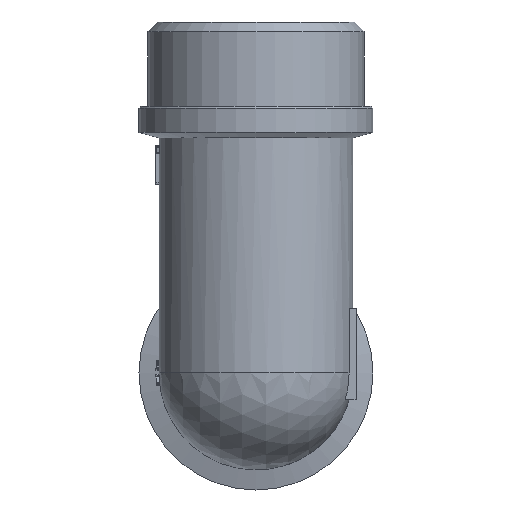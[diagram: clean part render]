
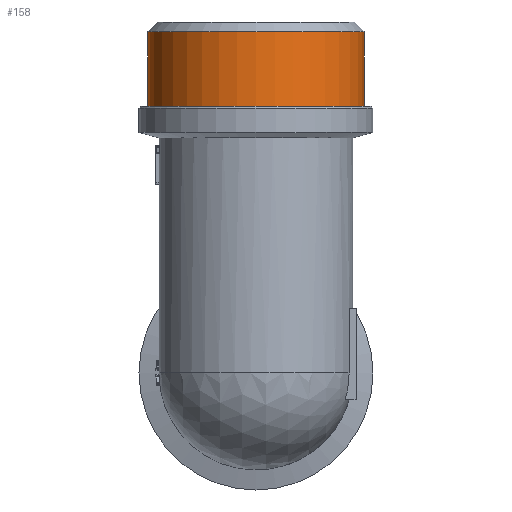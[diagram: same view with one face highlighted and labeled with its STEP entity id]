
A CAD part, front view. The second image highlights one B-rep face of the part: STEP entity #158.
In plain terms, the highlighted cylindrical face has radius 16.625 mm (diameter 33.249 mm), a full revolution.
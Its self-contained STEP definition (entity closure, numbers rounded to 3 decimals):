
#158=ADVANCED_FACE('',(#1017,#1019),#1021,.T.);
#1017=FACE_OUTER_BOUND('',#1018,.T.);
#1018=EDGE_LOOP('',(#1872));
#1019=FACE_OUTER_BOUND('',#1020,.T.);
#1020=EDGE_LOOP('',(#1873));
#1021=CYLINDRICAL_SURFACE('',#1022,16.625);
#1022=AXIS2_PLACEMENT_3D('',#1023,#1024,#1025);
#1023=CARTESIAN_POINT('',(0.,-54.,41.));
#1024=DIRECTION('',(0.,0.,1.));
#1025=DIRECTION('',(0.,1.,0.));
#1872=ORIENTED_EDGE('',*,*,#2197,.F.);
#1873=ORIENTED_EDGE('',*,*,#2195,.F.);
#2195=EDGE_CURVE('',#2707,#2707,#2708,.F.);
#2197=EDGE_CURVE('',#2711,#2711,#2712,.T.);
#2707=VERTEX_POINT('',#4830);
#2708=CIRCLE('',#4831,16.625);
#2711=VERTEX_POINT('',#4840);
#2712=CIRCLE('',#4841,16.625);
#4830=CARTESIAN_POINT('',(0.,-37.376,41.));
#4831=AXIS2_PLACEMENT_3D('',#4832,#4833,#4834);
#4832=CARTESIAN_POINT('',(0.,-54.,41.));
#4833=DIRECTION('',(0.,0.,1.));
#4834=DIRECTION('',(0.,1.,0.));
#4840=CARTESIAN_POINT('',(0.,-37.376,52.5));
#4841=AXIS2_PLACEMENT_3D('',#4842,#4843,#4844);
#4842=CARTESIAN_POINT('',(0.,-54.,52.5));
#4843=DIRECTION('',(0.,0.,1.));
#4844=DIRECTION('',(0.,1.,0.));
